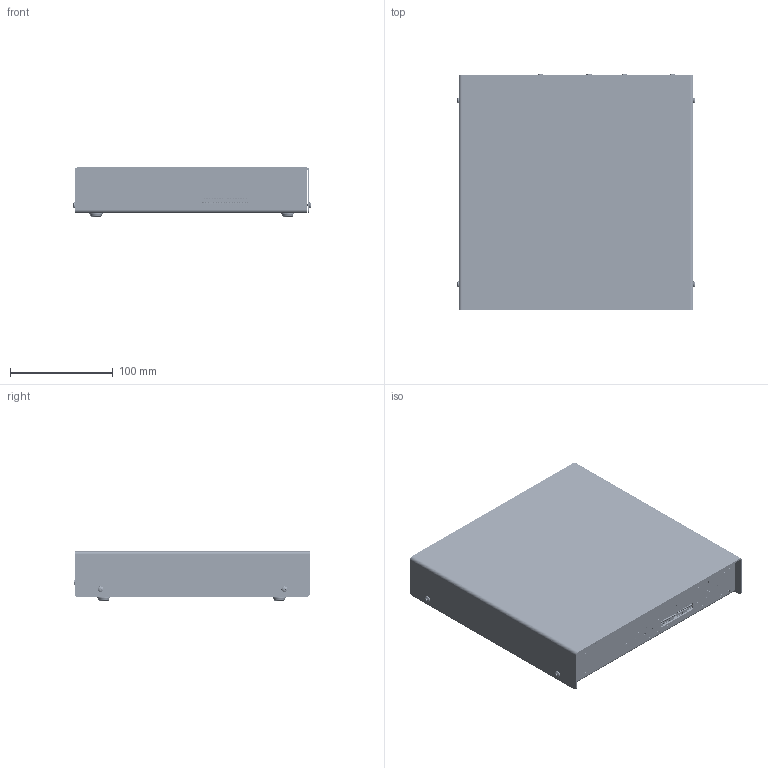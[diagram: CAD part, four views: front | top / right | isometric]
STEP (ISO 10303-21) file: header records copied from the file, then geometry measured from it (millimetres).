
FILE_DESCRIPTION(/* description */ (''),/* implementation_level */ '2;1');
FILE_NAME(/* name */ 'C:/Users/brook/OneDrive/Desktop/UDC-IC Mini.step',/* time_stamp */ '2022-05-27T11:56:52-04:00',/* author */ (''),/* organization */ (''),/* preprocessor_version */ 'ST-DEVELOPER v19',/* originating_system */ 'Autodesk Translation Framework v11.7.0.108',/* authorisation */ '');
FILE_SCHEMA (('AUTOMOTIVE_DESIGN { 1 0 10303 214 3 1 1 }'));
Products named in the file (21): Master Assembly Mini; Base Small; Component1; Bracket; 708004; 713008; 93090A210_Press-Fit Threaded Standoffs; 713025; K22X(HT)-B25S-N_rA3(rA2); 713025 (1); K22X(HT)-B25S-N_rA3(rA2) (1); Jack Screw for K42X-B25S-S-A4NJ-rA3; 90730A003_18-8 Stainless Steel Narrow Hex Nut; Power Supply; Main PCB; PCB Main; PCB Extension; Cover; 91772A106_Passivated 18-8 Stainless Steel Pan Head Phillips Screw; Piano Switch BPA08B; SJxx12
Assembly tree (61 placements, depth 3):
  Master Assembly Mini
    Base Small
      Component1
    Bracket  x2
    708004
    713008
    93090A210_Press-Fit Threaded Standoffs  x13
    713025
      K22X(HT)-B25S-N_rA3(rA2)
    713025 (1)
      K22X(HT)-B25S-N_rA3(rA2) (1)
    Jack Screw for K42X-B25S-S-A4NJ-rA3  x4
    91772A106_Passivated 18-8 Stainless Steel Pan Head Phillips Screw  x8
    90730A003_18-8 Stainless Steel Narrow Hex Nut  x4
    Power Supply
      91772A106_Passivated 18-8 Stainless Steel Pan Head Phillips Screw  x4
    PCB Extension  x2
    Main PCB
      91772A106_Passivated 18-8 Stainless Steel Pan Head Phillips Screw  x6
      PCB Main
    Cover
    Piano Switch BPA08B  x2
    SJxx12  x4
Bounding box: 232.09 x 229.37 x 47.98 mm (x, y, z)
Volume: 274330.6 mm3; surface area: 399056.3 mm2
Topology: 106 solids, 110 shells, 14851 faces, 40321 edges, 26495 vertices
Faces by surface type: plane 8076, bspline 4239, cylinder 1991, cone 294, torus 180, sphere 71
Full cylindrical faces by diameter (mm): 0.885 x1, 0.925 x1, 1.15 x50, 1.4 x4, 1.575 x68, 1.595 x4, 2.02 x253, 2.184 x12, 2.261 x8, 2.271 x8, 2.35 x4, 2.6 x3, 2.845 x256, 3 x3, 3.048 x4, 3.1 x6, 3.175 x4, 3.556 x38, 4.1 x4, 4.191 x13, 4.216 x10, 4.597 x34, 5.563 x18, 11 x1, 12.7 x6, 15.2 x1, 16 x1
Entity records: 407741 total; most frequent: CARTESIAN_POINT 146544, ORIENTED_EDGE 60058, DIRECTION 39081, EDGE_CURVE 30029, LINE 19899, VECTOR 19899, VERTEX_POINT 19701, EDGE_LOOP 12074
